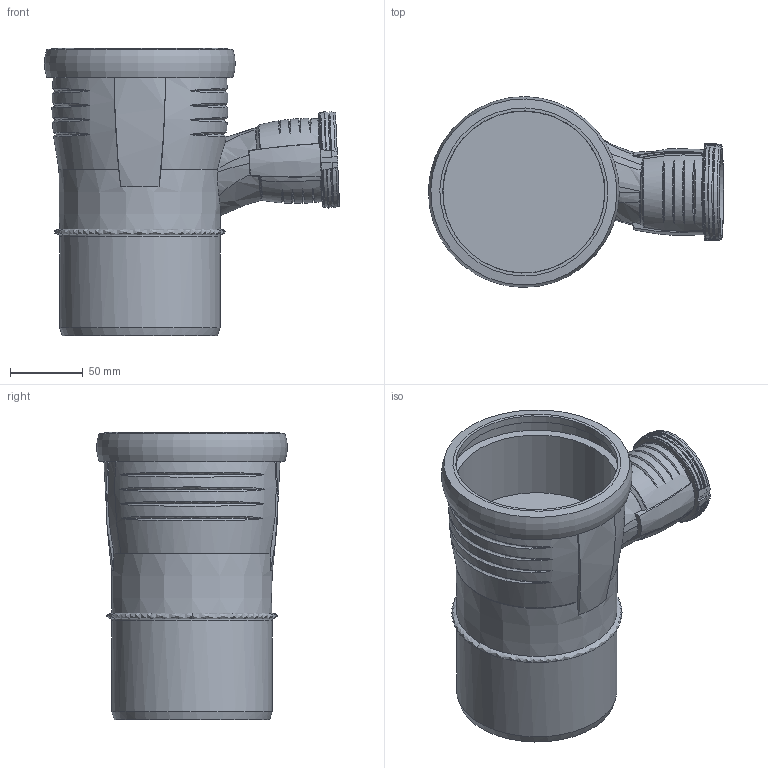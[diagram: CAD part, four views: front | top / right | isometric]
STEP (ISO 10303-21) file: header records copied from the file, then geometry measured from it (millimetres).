
FILE_DESCRIPTION(/* description */ (''),/* implementation_level */ '2;1');
FILE_NAME(/* name */ 'C:\Planerdaten\Export PLA\393.544.14.1\stp\393544.stp',/* time_stamp */ '2022-09-16T14:47:54+02:00',/* author */ ('JANAN'),/* organization */ (''),/* preprocessor_version */ 'ST-DEVELOPER v18.1',/* originating_system */ 'Autodesk Inventor 2021',/* authorisation */ '');
FILE_SCHEMA (('AUTOMOTIVE_DESIGN { 1 0 10303 214 3 1 1 }'));
Length unit declared in the file: millimetre
Products named in the file (1): tmp8904.tmp
Bounding box: 202.56 x 130.96 x 197 mm (x, y, z)
Volume: 982222.1 mm3; surface area: 175962.2 mm2
Topology: 2 solids, 3 shells, 226 faces, 620 edges, 411 vertices
Faces by surface type: bspline 152, cone 29, cylinder 17, torus 12, plane 10, sphere 6
Full cylindrical faces by diameter (mm): 50.7 x1, 60.1 x1, 101.2 x1, 110.2 x1, 111 x1, 111.3 x1, 121.5 x1
Entity records: 32097 total; most frequent: CARTESIAN_POINT 26941, ORIENTED_EDGE 1230, DIRECTION 720, EDGE_CURVE 615, VERTEX_POINT 414, AXIS2_PLACEMENT_3D 330, B_SPLINE_CURVE_WITH_KNOTS 296, EDGE_LOOP 247
